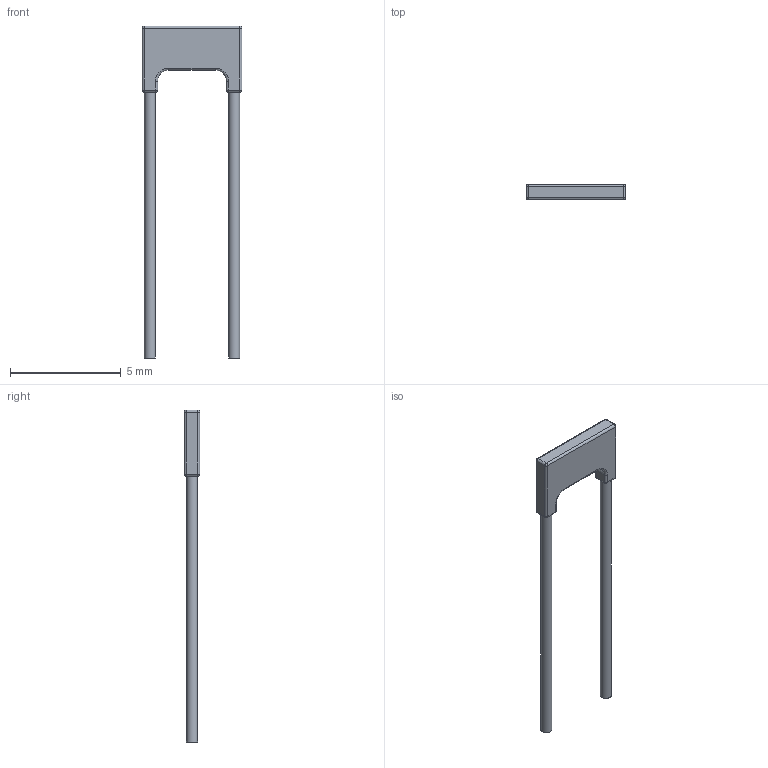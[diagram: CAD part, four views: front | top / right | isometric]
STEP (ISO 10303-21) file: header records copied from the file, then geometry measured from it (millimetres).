
FILE_DESCRIPTION(('STEP AP203'), '1');
FILE_NAME('R1-34', '2021-09-02T11:15:32', ('admin'), (''), 'ASCON STEP Converter 1.6', 'ASCON Math Kernel', '');
FILE_SCHEMA(('CONFIG_CONTROL_DESIGN'));
Length unit declared in the file: millimetre
Bounding box: 4.5 x 0.7 x 15 mm (x, y, z)
Volume: 12 mm3; surface area: 68.7 mm2
Topology: 1 solids, 1 shells, 60 faces, 132 edges, 62 vertices
Faces by surface type: cylinder 26, plane 18, sphere 12, torus 4
Full cylindrical faces by diameter (mm): 0.5 x2
Entity records: 2028 total; most frequent: DIRECTION 302, CARTESIAN_POINT 241, ORIENTED_EDGE 236, AXIS2_PLACEMENT_3D 123, EDGE_CURVE 118, EDGE_LOOP 62, VERTEX_POINT 62, CIRCLE 62
